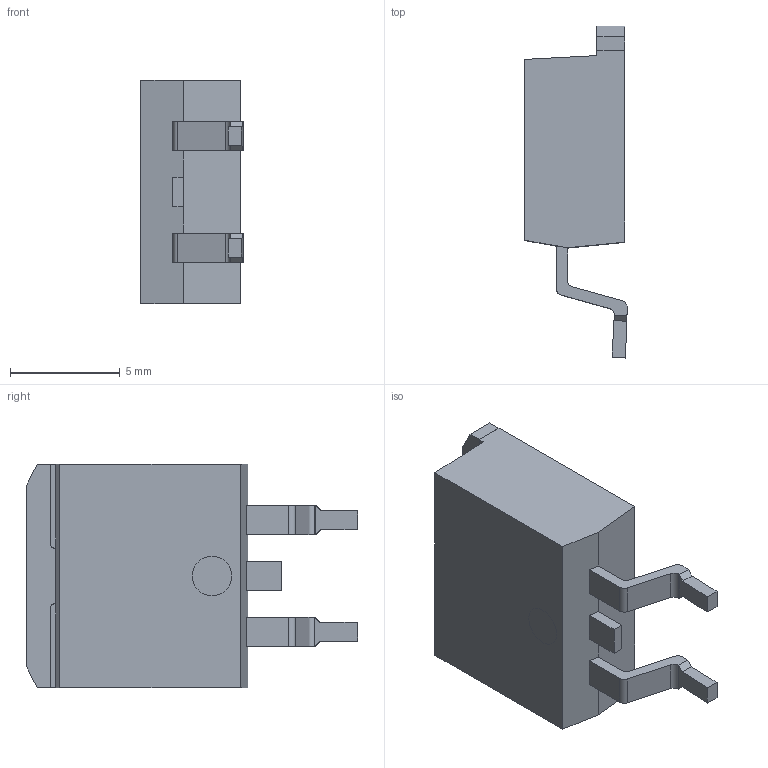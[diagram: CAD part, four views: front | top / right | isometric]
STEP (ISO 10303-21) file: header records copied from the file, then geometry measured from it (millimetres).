
FILE_DESCRIPTION (( 'STEP AP203' ), '1' );
FILE_NAME ('TO263AB.STEP', '2019-01-14T07:05:57', ( 'User' ), ( 'Microsoft' ), 'SwSTEP 2.0', 'SolidWorks 2014', '' );
FILE_SCHEMA (( 'CONFIG_CONTROL_DESIGN' ));
Length unit declared in the file: millimetre
Products named in the file (1): TO263AB
Bounding box: 4.67 x 15.1 x 10.18 mm (x, y, z)
Volume: 422.4 mm3; surface area: 424 mm2
Topology: 1 solids, 1 shells, 83 faces, 230 edges, 150 vertices
Faces by surface type: plane 67, cylinder 16
Entity records: 2693 total; most frequent: CARTESIAN_POINT 464, ORIENTED_EDGE 460, DIRECTION 430, EDGE_CURVE 230, VECTOR 198, LINE 198, VERTEX_POINT 150, AXIS2_PLACEMENT_3D 116
